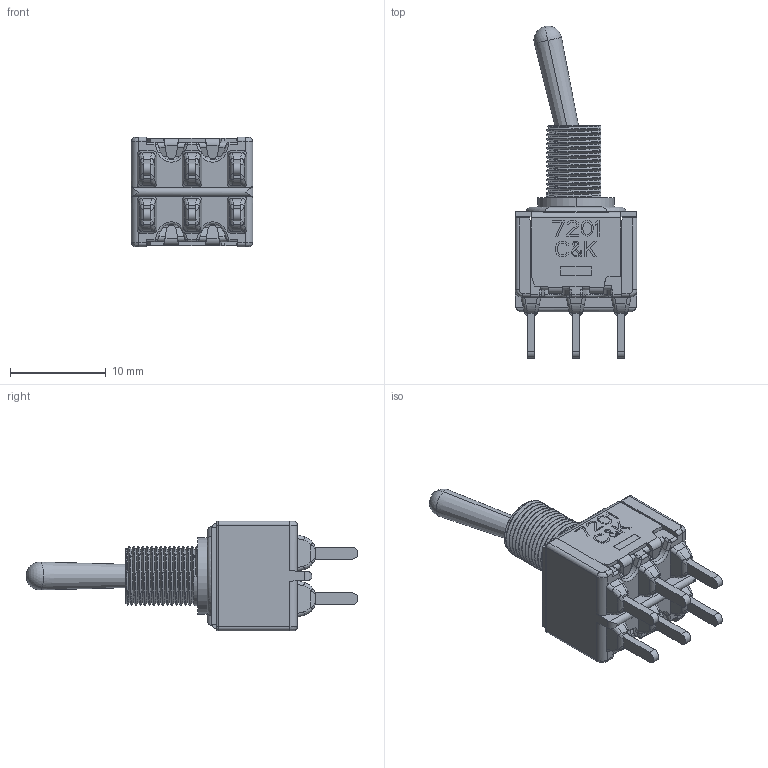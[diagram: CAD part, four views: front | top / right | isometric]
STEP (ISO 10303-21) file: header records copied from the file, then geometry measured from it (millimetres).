
FILE_DESCRIPTION((''),'2;1');
FILE_NAME('72XXSHC_SW0001_PRT','2012-08-08T',('jtrepler'),(''),'PRO/ENGINEER BY PARAMETRIC TECHNOLOGY CORPORATION, 2011080','PRO/ENGINEER BY PARAMETRIC TECHNOLOGY CORPORATION, 2011080','');
FILE_SCHEMA(('AUTOMOTIVE_DESIGN_CC2 { 1 2 10303 214 -1 1 5 2 }'));
Length unit declared in the file: inch
Products named in the file (1): 72XXSHC_SW0001_PRT
Bounding box: 12.7 x 34.65 x 11.43 mm (x, y, z)
Volume: 964.7 mm3; surface area: 2376.9 mm2
Topology: 2 solids, 2 shells, 1065 faces, 2892 edges, 1827 vertices
Faces by surface type: plane 688, cylinder 213, bspline 123, torus 18, sphere 12, cone 11
Entity records: 44328 total; most frequent: CARTESIAN_POINT 18608, ORIENTED_EDGE 5776, DIRECTION 4658, EDGE_CURVE 2888, VECTOR 2066, LINE 2066, VERTEX_POINT 1827, AXIS2_PLACEMENT_3D 1296
